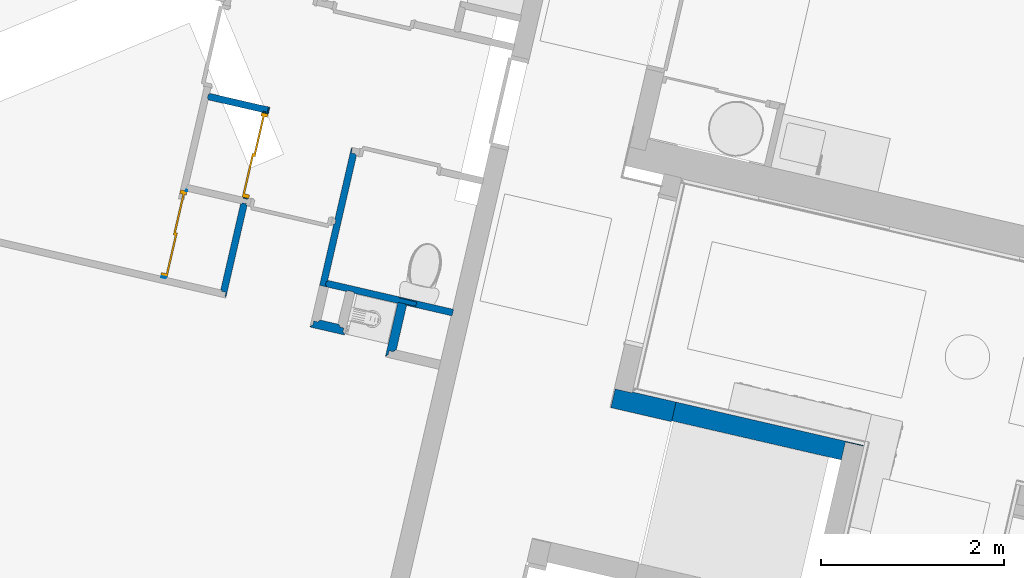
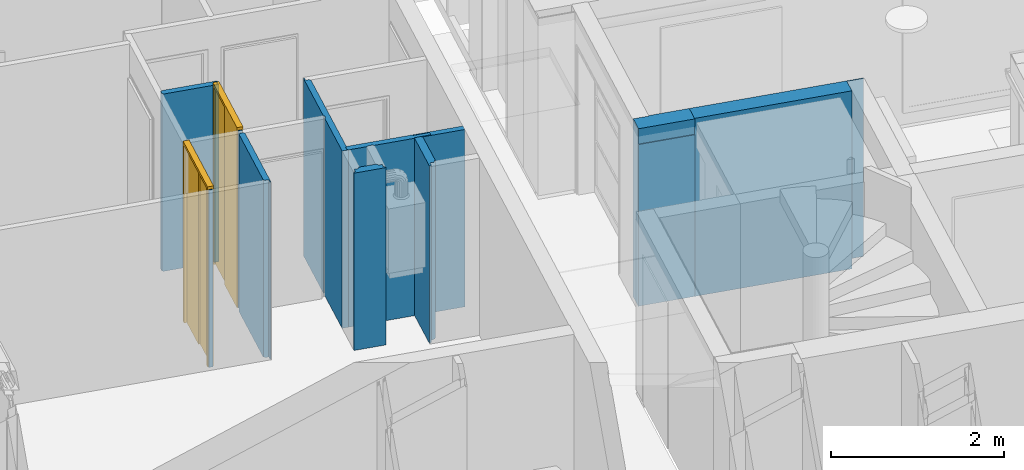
# One storey, part 47 of 119: 11 walls, 2 doors, 2 openings.
"""IFC2X3 building model written with IfcOpenShell, lengths in metres."""

from ifc_helpers import new_model, entity, si_unit, converted_unit, derived_unit, money_unit, direction, frame, origin_with_axes, place, context, subcontext, project, spatial, faceted_brep, material, material_list, type_object, element, fill, save


model = new_model("IFC2X3")

# Units and contexts
model_context = context("Model", 3, precision=1e-05, world=origin_with_axes(), true_north=direction((0.0, 1.0)))
body_context = subcontext(model_context, "Body", "Model", "MODEL_VIEW")
ifc_project = project(units=[si_unit("LENGTHUNIT", "METRE"), si_unit("AREAUNIT", "SQUARE_METRE"), si_unit("VOLUMEUNIT", "CUBIC_METRE"), converted_unit("PLANEANGLEUNIT", "DEGREE", entity("IfcPlaneAngleMeasure", 0.0174532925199), si_unit("PLANEANGLEUNIT", "RADIAN"), dimensions=[0, 0, 0, 0, 0, 0, 0]), si_unit("SOLIDANGLEUNIT", "STERADIAN"), money_unit("EUR"), converted_unit("TIMEUNIT", "Year", entity("IfcTimeMeasure", 31556926.0), si_unit("TIMEUNIT", "SECOND"), dimensions=[0, 0, 1, 0, 0, 0, 0]), si_unit("MASSUNIT", "GRAM", prefix="KILO"), si_unit("THERMODYNAMICTEMPERATUREUNIT", "DEGREE_CELSIUS"), si_unit("LUMINOUSINTENSITYUNIT", "LUMEN"), si_unit("ENERGYUNIT", "JOULE", prefix="MEGA"), derived_unit("THERMALCONDUCTANCEUNIT", [(si_unit("POWERUNIT", "WATT"), 1), (si_unit("LENGTHUNIT", "METRE"), -1), (si_unit("THERMODYNAMICTEMPERATUREUNIT", "KELVIN"), -1)]), derived_unit("SPECIFICHEATCAPACITYUNIT", [(si_unit("ENERGYUNIT", "JOULE"), 1), (si_unit("MASSUNIT", "GRAM", prefix="KILO"), -1), (si_unit("THERMODYNAMICTEMPERATUREUNIT", "KELVIN"), -1)]), derived_unit("MASSDENSITYUNIT", [(si_unit("MASSUNIT", "GRAM", prefix="KILO"), 1), (si_unit("VOLUMEUNIT", "CUBIC_METRE"), -1)])], contexts=[model_context])

# Site, building, storey
site_placement = place(None, origin_with_axes())
site = spatial("IfcSite", under=ifc_project, at=site_placement, Name="Site", CompositionType="ELEMENT")
building_placement = place(site_placement, origin_with_axes())
building = spatial("IfcBuilding", under=site, at=building_placement, Name="Bâtiment", CompositionType="ELEMENT")
storey_placement = place(building_placement, origin_with_axes())
storey = spatial("IfcBuildingStorey", under=building, at=storey_placement, Name="Rez-de-chaussée", CompositionType="ELEMENT", Elevation=0.0)

# Walls
ifc_material_1 = material(Name="Finition int - Plaque de plâtre")
ifc_material_2 = material(Name="Isolation - Laine de roche")
ifc_material_list_1 = material_list([ifc_material_1, ifc_material_2, ifc_material_1])
wall_type_1 = type_object("IfcWallType", Name="3 - Cloison 72mm Placostil 74", PredefinedType="USERDEFINED")
wall_1_placement = place(storey_placement, frame((-12.2584688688, -3.14533732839, 0.0), z_axis=(0.0, 0.0, 1.0), x_axis=(-0.97438734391, 0.224876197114, 0.0)))
element("IfcWall", 1, at=wall_1_placement, inside=storey, type_object=wall_type_1, material=ifc_material_list_1, Name="Cloison Placostil 72/48", ObjectType="PARTITIONING", context=body_context, shape_type="Brep", body=[
    faceted_brep([(0.567947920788, -0.013, 0.0), (0.801000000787, -0.013, 0.0), (0.801000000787, -0.013, 2.5), (0.567947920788, -0.013, 2.5), (0.568109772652, 0.0, 0.0), (0.801000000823, 2.78449263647e-10, 0.0), (0.801000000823, 2.78449263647e-10, 2.5), (0.568109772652, 0.0, 2.5)], [[[0, 1, 2, 3]], [[4, 5, 1, 0]], [[5, 6, 2, 1]], [[3, 2, 6, 7]], [[4, 0, 3, 7]], [[7, 6, 5, 4]]]),
    faceted_brep([(0.49410403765, 0.0, 2.5), (0.0, 0.0, 2.5), (0.0, -0.013, 2.5), (0.493942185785, -0.013, 2.5), (0.49410403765, 0.0, 0.0), (0.0, 0.0, 0.0), (0.0, -0.013, 0.0), (0.493942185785, -0.013, 0.0)], [[[0, 1, 2, 3]], [[4, 5, 1, 0]], [[5, 6, 2, 1]], [[3, 2, 6, 7]], [[4, 0, 3, 7]], [[7, 6, 5, 4]]]),
    faceted_brep([(-0.200000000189, -0.061, 0.0), (0.814000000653, -0.061, 0.0), (0.814000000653, -0.061, 2.5), (-0.200000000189, -0.061, 2.5), (-0.200000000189, -0.013, 0.0), (0.814000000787, -0.013, 0.0), (0.814000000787, -0.013, 2.5), (-0.200000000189, -0.013, 2.5)], [[[0, 1, 2, 3]], [[4, 5, 1, 0]], [[5, 6, 2, 1]], [[3, 2, 6, 7]], [[7, 4, 0, 3]], [[7, 6, 5, 4]]]),
    faceted_brep([(0.801000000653, -0.061, 2.5), (-1.5607604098e-10, -0.061, 2.5), (-1.89340099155e-10, -0.074, 2.5), (0.801000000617, -0.074, 2.5), (0.801000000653, -0.061, 0.0), (-1.5607604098e-10, -0.061, 0.0), (-1.89340099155e-10, -0.074, 0.0), (0.801000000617, -0.074, 0.0)], [[[0, 1, 2, 3]], [[4, 5, 1, 0]], [[5, 6, 2, 1]], [[3, 2, 6, 7]], [[4, 0, 3, 7]], [[7, 6, 5, 4]]]),
])
wall_2_placement = place(storey_placement, frame((-12.7629494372, -1.44021904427, 0.0), z_axis=(0.0, 0.0, 1.0), x_axis=(-0.224876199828, -0.974387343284, 0.0)))
element("IfcWall", 2, at=wall_2_placement, inside=storey, type_object=wall_type_1, material=ifc_material_list_1, Name="Cloison Placostil 72/48", ObjectType="PARTITIONING", context=body_context, shape_type="Brep", body=[
    faceted_brep([(1.54800000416, 0.074, 0.0), (1.53500000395, 0.074, 0.0), (1.53500000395, 0.074, 2.5), (1.54800000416, 0.074, 2.5), (1.54800000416, 0.061, 0.0), (1.53500000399, 0.061, 0.0), (1.53500000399, 0.061, 2.5), (1.54800000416, 0.061, 2.5)], [[[0, 1, 2, 3]], [[4, 5, 1, 0]], [[5, 6, 2, 1]], [[3, 2, 6, 7]], [[3, 7, 4, 0]], [[7, 6, 5, 4]]]),
    faceted_brep([(0.0740000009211, 0.061, 2.5), (1.48700000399, 0.061, 2.5), (1.48700000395, 0.074, 2.5), (0.0740000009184, 0.074, 2.5), (0.0740000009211, 0.061, 0.0), (1.48700000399, 0.061, 0.0), (1.48700000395, 0.074, 0.0), (0.0740000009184, 0.074, 0.0)], [[[0, 1, 2, 3]], [[4, 5, 1, 0]], [[5, 6, 2, 1]], [[3, 2, 6, 7]], [[3, 7, 4, 0]], [[7, 6, 5, 4]]]),
    faceted_brep([(1.54800000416, 0.013, 0.0), (0.061000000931, 0.013, 0.0), (0.0610000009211, 0.061, 0.0), (1.54800000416, 0.061, 0.0), (1.54800000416, 0.013, 2.5), (0.061000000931, 0.013, 2.5), (0.0610000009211, 0.061, 2.5), (1.54800000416, 0.061, 2.5)], [[[0, 1, 2, 3]], [[4, 5, 1, 0]], [[6, 2, 1, 5]], [[3, 2, 6, 7]], [[7, 4, 0, 3]], [[7, 6, 5, 4]]]),
    faceted_brep([(1.54800000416, 0.0, 0.0), (0.859293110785, 0.0, 0.0), (0.859293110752, 0.013, 0.0), (1.54800000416, 0.013, 0.0), (1.54800000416, 0.0, 2.5), (0.859293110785, 0.0, 2.5), (0.859293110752, 0.013, 2.5), (1.54800000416, 0.013, 2.5)], [[[0, 1, 2, 3]], [[4, 5, 1, 0]], [[6, 2, 1, 5]], [[3, 2, 6, 7]], [[7, 4, 0, 3]], [[7, 6, 5, 4]]]),
    faceted_brep([(0.0130000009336, 0.0, 0.0), (0.013000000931, 0.013, 0.0), (0.811293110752, 0.013, 0.0), (0.811293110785, 0.0, 0.0), (0.0130000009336, 0.0, 2.5), (0.013000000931, 0.013, 2.5), (0.811293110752, 0.013, 2.5), (0.811293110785, 0.0, 2.5)], [[[0, 1, 2, 3]], [[1, 0, 4, 5]], [[1, 5, 6, 2]], [[7, 3, 2, 6]], [[4, 0, 3, 7]], [[5, 4, 7, 6]]]),
])

# Wall, opening, door
ifc_material_list_2 = material_list([ifc_material_2, ifc_material_1])
wall_3_placement = place(storey_placement, frame((-14.7921930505, -2.93548120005, 0.0), z_axis=(0.0, 0.0, 1.0), x_axis=(0.224876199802, 0.974387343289, 0.0)))
wall_3 = element("IfcWall", 3, at=wall_3_placement, inside=storey, type_object=wall_type_1, material=ifc_material_list_2, Name="Cloison Placostil 72/48", ObjectType="PARTITIONING", context=body_context, shape_type="Brep", body=[
    faceted_brep([(0.0740000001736, 0.013, 0.0), (0.0740000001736, 0.013, 2.5), (0.0609999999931, 0.013, 2.5), (0.0609999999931, 0.013, 0.0), (0.0740000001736, 0.061, 2.5), (0.0740000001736, 0.061, 0.0), (0.0609999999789, 0.061, 2.5), (0.0609999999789, 0.061, 0.0)], [[[0, 1, 2, 3]], [[4, 1, 0, 5]], [[1, 4, 6, 2]], [[6, 7, 3, 2]], [[5, 0, 3, 7]], [[4, 5, 7, 6]]]),
    faceted_brep([(1.04099999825, 0.013, 2.5), (1.04099999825, 0.0, 2.5), (1.05399999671, 0.0, 2.5), (1.05399999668, 0.013, 2.5), (1.04099999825, 0.0, 0.0), (1.04099999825, 0.013, 0.0), (1.05399999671, 0.0, 0.0), (1.05399999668, 0.013, 0.0)], [[[0, 1, 2, 3]], [[4, 1, 0, 5]], [[1, 4, 6, 2]], [[6, 7, 3, 2]], [[5, 0, 3, 7]], [[4, 5, 7, 6]]]),
])
opening_1_placement = place(wall_3_placement, frame((0.557499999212, 0.0, 0.0), z_axis=(0.0, 0.0, 1.0), x_axis=(1.0, 0.0, 0.0)))
opening_1 = element("IfcOpeningElement", 4, at=opening_1_placement, cuts=wall_3, Name="Por-003", context=body_context, shape_type="Brep", body=[
    faceted_brep([(-0.483499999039, 0.074, 0.0), (0.483499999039, 0.074, 0.0), (0.483499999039, -0.074, 0.0), (-0.483499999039, -0.074, 0.0), (-0.483499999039, 0.074, 2.54), (0.483499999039, 0.074, 2.54), (0.483499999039, -0.074, 2.54), (-0.483499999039, -0.074, 2.54)], [[[0, 1, 2, 3]], [[0, 4, 5, 1]], [[1, 5, 6, 2]], [[3, 2, 6, 7]], [[4, 0, 3, 7]], [[5, 4, 7, 6]]]),
])
door_style = type_object("IfcDoorStyle", Name="Porte int générique 2019", ConstructionType="NOTDEFINED", OperationType="USERDEFINED", ParameterTakesPrecedence=False, Sizeable=False)
door_1_placement = place(opening_1_placement, frame((0.443499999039, 0.0, 0.0), z_axis=(0.0, 0.0, 1.0), x_axis=(-1.0, 0.0, 0.0)))
door_1 = element("IfcDoor", 5, at=door_1_placement, inside=storey, type_object=door_style, Name="Por-003", ObjectType="DOOR", OverallHeight=2.5, OverallWidth=0.887, context=body_context, shape_type="Brep", body=[
    faceted_brep([(0.926999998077, 0.0, 0.0), (0.886999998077, 0.0, 0.0), (0.886999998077, 0.0, 2.5), (0.0, 0.0, 2.5), (0.0, 0.0, 0.0), (-0.04, 0.0, 0.0), (-0.04, 0.0, 2.54), (0.926999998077, 0.0, 2.54), (0.926999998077, -0.074, 0.0), (0.886999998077, -0.074, 0.0), (0.886999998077, -0.074, 2.5), (0.0, -0.074, 2.5), (0.0, -0.074, 0.0), (-0.04, -0.074, 0.0), (-0.04, -0.074, 2.54), (0.926999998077, -0.074, 2.54)], [[[0, 1, 2, 3, 4, 5, 6, 7]], [[0, 8, 9, 1]], [[1, 9, 10, 2]], [[2, 10, 11, 3]], [[3, 11, 12, 4]], [[5, 4, 12, 13]], [[14, 6, 5, 13]], [[15, 7, 6, 14]], [[8, 0, 7, 15]], [[9, 8, 15, 14, 13, 12, 11, 10]]]),
    faceted_brep([(0.886999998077, 0.0, 0.0), (0.886999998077, -0.02, 0.0), (0.428499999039, -0.02, 0.0), (0.428499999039, 0.0, 0.0), (0.886999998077, 0.0, 2.5), (0.886999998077, -0.02, 2.5), (0.428499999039, -0.02, 2.5), (0.428499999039, 0.0, 2.5)], [[[0, 1, 2, 3]], [[4, 5, 1, 0]], [[1, 5, 6, 2]], [[3, 2, 6, 7]], [[0, 3, 7, 4]], [[7, 6, 5, 4]]]),
    faceted_brep([(0.458499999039, -0.02, 0.0), (0.458499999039, -0.04, 0.0), (0.0, -0.04, 0.0), (0.0, -0.02, 0.0), (0.458499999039, -0.02, 2.5), (0.458499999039, -0.04, 2.5), (0.0, -0.04, 2.5), (0.0, -0.02, 2.5)], [[[0, 1, 2, 3]], [[4, 5, 1, 0]], [[1, 5, 6, 2]], [[3, 2, 6, 7]], [[0, 3, 7, 4]], [[7, 6, 5, 4]]]),
])
fill(opening_1, door_1)

wall_4_placement = place(storey_placement, frame((-13.8847190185, -2.00060587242, 0.0), z_axis=(0.0, 0.0, 1.0), x_axis=(0.224876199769, 0.974387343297, 0.0)))
wall_4 = element("IfcWall", 6, at=wall_4_placement, inside=storey, type_object=wall_type_1, material=ifc_material_list_2, Name="Cloison Placostil 72/48", ObjectType="PARTITIONING", context=body_context, shape_type="Brep", body=[
    faceted_brep([(0.950000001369, 0.061, 2.5), (0.950000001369, 0.013, 2.5), (0.963000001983, 0.013, 2.5), (0.963000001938, 0.061, 2.5), (0.950000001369, 0.013, 0.0), (0.950000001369, 0.061, 0.0), (0.963000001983, 0.013, 0.0), (0.963000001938, 0.061, 0.0)], [[[0, 1, 2, 3]], [[4, 1, 0, 5]], [[1, 4, 6, 2]], [[7, 3, 2, 6]], [[5, 0, 3, 7]], [[4, 5, 7, 6]]]),
    faceted_brep([(0.950000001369, 0.013, 2.5), (0.950000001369, 0.0, 2.5), (1.01100000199, 0.0, 2.5), (1.01100000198, 0.013, 2.5), (0.950000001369, 0.0, 0.0), (0.950000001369, 0.013, 0.0), (1.01100000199, 0.0, 0.0), (1.01100000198, 0.013, 0.0)], [[[0, 1, 2, 3]], [[4, 1, 0, 5]], [[1, 4, 6, 2]], [[7, 3, 2, 6]], [[5, 0, 3, 7]], [[4, 5, 7, 6]]]),
])
opening_2_placement = place(wall_4_placement, frame((0.474999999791, 0.0, 0.0), z_axis=(0.0, 0.0, 1.0), x_axis=(1.0, 0.0, 0.0)))
opening_2 = element("IfcOpeningElement", 7, at=opening_2_placement, cuts=wall_4, Name="Por-002", context=body_context, shape_type="Brep", body=[
    faceted_brep([(-0.475000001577, 0.074, 0.0), (0.475000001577, 0.074, 0.0), (0.475000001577, -0.074, 0.0), (-0.475000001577, -0.074, 0.0), (-0.475000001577, 0.074, 2.54), (0.475000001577, 0.074, 2.54), (0.475000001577, -0.074, 2.54), (-0.475000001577, -0.074, 2.54)], [[[0, 1, 2, 3]], [[0, 4, 5, 1]], [[1, 5, 6, 2]], [[3, 2, 6, 7]], [[4, 0, 3, 7]], [[5, 4, 7, 6]]]),
])
door_2_placement = place(opening_2_placement, frame((-0.435000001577, 0.0, 0.0), z_axis=(0.0, 0.0, 1.0), x_axis=(1.0, 0.0, 0.0)))
door_2 = element("IfcDoor", 8, at=door_2_placement, inside=storey, type_object=door_style, Name="Por-002", ObjectType="DOOR", OverallHeight=2.5, OverallWidth=0.87, context=body_context, shape_type="Brep", body=[
    faceted_brep([(-0.04, 0.074, 0.0), (-0.04, 0.074, 2.54), (0.910000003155, 0.074, 2.54), (0.910000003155, 0.074, 0.0), (0.870000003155, 0.074, 0.0), (0.870000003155, 0.074, 2.5), (0.0, 0.074, 2.5), (0.0, 0.074, 0.0), (-0.04, 0.0, 0.0), (-0.04, 0.0, 2.54), (0.910000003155, 0.0, 2.54), (0.910000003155, 0.0, 0.0), (0.870000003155, 0.0, 0.0), (0.870000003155, 0.0, 2.5), (0.0, 0.0, 2.5), (0.0, 0.0, 0.0)], [[[0, 1, 2, 3, 4, 5, 6, 7]], [[8, 9, 1, 0]], [[9, 10, 2, 1]], [[10, 11, 3, 2]], [[3, 11, 12, 4]], [[5, 4, 12, 13]], [[6, 5, 13, 14]], [[7, 6, 14, 15]], [[0, 7, 15, 8]], [[15, 14, 13, 12, 11, 10, 9, 8]]]),
    faceted_brep([(0.0, 0.074, 0.0), (0.450000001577, 0.074, 0.0), (0.450000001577, 0.054, 0.0), (0.0, 0.054, 0.0), (0.0, 0.074, 2.5), (0.450000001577, 0.074, 2.5), (0.450000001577, 0.054, 2.5), (0.0, 0.054, 2.5)], [[[0, 1, 2, 3]], [[0, 4, 5, 1]], [[1, 5, 6, 2]], [[3, 2, 6, 7]], [[4, 0, 3, 7]], [[5, 4, 7, 6]]]),
    faceted_brep([(0.420000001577, 0.054, 0.0), (0.870000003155, 0.054, 0.0), (0.870000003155, 0.034, 0.0), (0.420000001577, 0.034, 0.0), (0.420000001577, 0.054, 2.5), (0.870000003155, 0.054, 2.5), (0.870000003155, 0.034, 2.5), (0.420000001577, 0.034, 2.5)], [[[0, 1, 2, 3]], [[0, 4, 5, 1]], [[1, 5, 6, 2]], [[3, 2, 6, 7]], [[4, 0, 3, 7]], [[5, 4, 7, 6]]]),
])
fill(opening_2, door_2)

# Walls
wall_5_placement = place(storey_placement, frame((-14.1354559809, -3.08704775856, 0.0), z_axis=(0.0, 0.0, 1.0), x_axis=(0.224876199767, 0.974387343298, 0.0)))
element("IfcWall", 9, at=wall_5_placement, inside=storey, type_object=wall_type_1, material=ifc_material_list_1, Name="Cloison Placostil 72/48", ObjectType="PARTITIONING", context=body_context, shape_type="Brep", body=[
    faceted_brep([(1.04099999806, 0.074, 0.0), (1.04099999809, 0.061, 0.0), (0.0739999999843, 0.061, 0.0), (0.0739999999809, 0.074, 0.0), (1.04099999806, 0.074, 2.5), (1.04099999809, 0.061, 2.5), (0.0739999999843, 0.061, 2.5), (0.0739999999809, 0.074, 2.5)], [[[0, 1, 2, 3]], [[1, 0, 4, 5]], [[1, 5, 6, 2]], [[7, 3, 2, 6]], [[4, 0, 3, 7]], [[5, 4, 7, 6]]]),
    faceted_brep([(1.05399999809, 0.061, 0.0), (1.05399999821, 0.013, 0.0), (0.0609999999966, 0.013, 0.0), (0.0609999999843, 0.061, 0.0), (1.05399999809, 0.061, 2.5), (1.05399999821, 0.013, 2.5), (0.0609999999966, 0.013, 2.5), (0.0609999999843, 0.061, 2.5)], [[[0, 1, 2, 3]], [[1, 0, 4, 5]], [[1, 5, 6, 2]], [[7, 3, 2, 6]], [[4, 0, 3, 7]], [[5, 4, 7, 6]]]),
    faceted_brep([(1.10199999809, 0.061, 0.0), (1.11499999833, 0.061, 0.0), (1.11499999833, 0.013, 0.0), (1.10199999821, 0.013, 0.0), (1.10199999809, 0.061, 2.5), (1.11499999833, 0.061, 2.5), (1.11499999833, 0.013, 2.5), (1.10199999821, 0.013, 2.5)], [[[0, 1, 2, 3]], [[4, 5, 1, 0]], [[2, 1, 5, 6]], [[3, 2, 6, 7]], [[4, 0, 3, 7]], [[7, 6, 5, 4]]]),
    faceted_brep([(1.04099999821, 0.013, 0.0), (1.04099999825, 0.0, 0.0), (0.013, 0.0, 0.0), (0.0129999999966, 0.013, 0.0), (1.04099999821, 0.013, 2.5), (1.04099999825, 0.0, 2.5), (0.013, 0.0, 2.5), (0.0129999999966, 0.013, 2.5)], [[[0, 1, 2, 3]], [[1, 0, 4, 5]], [[1, 5, 6, 2]], [[7, 3, 2, 6]], [[4, 0, 3, 7]], [[5, 4, 7, 6]]]),
])
wall_6_placement = place(storey_placement, frame((-11.4887028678, -3.32298952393, 0.0), z_axis=(0.0, 0.0, 1.0), x_axis=(-0.97438734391, 0.224876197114, 0.0)))
element("IfcWall", 10, at=wall_6_placement, inside=storey, type_object=wall_type_1, material=ifc_material_list_1, Name="Cloison Placostil 72/48", ObjectType="PARTITIONING", context=body_context, shape_type="Brep", body=[
    faceted_brep([(0.179999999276, -0.013, 2.5), (0.702999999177, -0.013, 2.5), (0.70299999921, 0.0, 2.5), (0.179999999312, 0.0, 2.5), (0.179999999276, -0.013, 0.0), (0.702999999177, -0.013, 0.0), (0.70299999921, 0.0, 0.0), (0.179999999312, 0.0, 0.0)], [[[0, 1, 2, 3]], [[4, 5, 1, 0]], [[6, 2, 1, 5]], [[3, 2, 6, 7]], [[7, 4, 0, 3]], [[7, 6, 5, 4]]]),
    faceted_brep([(0.179999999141, -0.061, 0.0), (0.589999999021, -0.061, 0.0), (0.589999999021, -0.061, 2.5), (0.179999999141, -0.061, 2.5), (0.179999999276, -0.013, 0.0), (0.589999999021, -0.013, 0.0), (0.589999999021, -0.013, 2.5), (0.179999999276, -0.013, 2.5)], [[[0, 1, 2, 3]], [[4, 5, 1, 0]], [[5, 6, 2, 1]], [[3, 2, 6, 7]], [[4, 0, 3, 7]], [[7, 6, 5, 4]]]),
    faceted_brep([(0.179999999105, -0.074, 2.5), (0.776999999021, -0.074, 2.5), (0.776999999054, -0.061, 2.5), (0.179999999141, -0.061, 2.5), (0.179999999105, -0.074, 0.0), (0.776999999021, -0.074, 0.0), (0.776999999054, -0.061, 0.0), (0.179999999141, -0.061, 0.0)], [[[0, 1, 2, 3]], [[4, 5, 1, 0]], [[6, 2, 1, 5]], [[3, 2, 6, 7]], [[7, 4, 0, 3]], [[7, 6, 5, 4]]]),
])
wall_7_placement = place(storey_placement, frame((-13.6544457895, -1.00283323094, 0.0), z_axis=(0.0, 0.0, 1.0), x_axis=(-0.974387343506, 0.224876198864, 0.0)))
element("IfcWall", 11, at=wall_7_placement, inside=storey, type_object=wall_type_1, material=ifc_material_list_1, Name="Cloison Placostil 72/48", ObjectType="PARTITIONING", context=body_context, shape_type="Brep", body=[
    faceted_brep([(0.674000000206, 0.074, 0.0), (0.674000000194, 0.061, 0.0), (0.0610000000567, 0.061, 0.0), (0.0610000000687, 0.074, 0.0), (0.674000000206, 0.074, 2.5), (0.674000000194, 0.061, 2.5), (0.0610000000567, 0.061, 2.5), (0.0610000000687, 0.074, 2.5)], [[[0, 1, 2, 3]], [[1, 0, 4, 5]], [[1, 5, 6, 2]], [[7, 3, 2, 6]], [[4, 0, 3, 7]], [[5, 4, 7, 6]]]),
    faceted_brep([(0.687000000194, 0.061, 0.0), (0.687000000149, 0.013, 0.0), (0.0130000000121, 0.013, 0.0), (0.0130000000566, 0.061, 0.0), (0.687000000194, 0.061, 2.5), (0.687000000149, 0.013, 2.5), (0.0130000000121, 0.013, 2.5), (0.0130000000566, 0.061, 2.5)], [[[0, 1, 2, 3]], [[1, 0, 4, 5]], [[1, 5, 6, 2]], [[7, 3, 2, 6]], [[4, 0, 3, 7]], [[5, 4, 7, 6]]]),
    faceted_brep([(0.674000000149, 0.013, 0.0), (0.674000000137, 0.0, 0.0), (0.0, 0.0, 0.0), (0.0, 0.013, 0.0), (0.674000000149, 0.013, 2.5), (0.674000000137, 0.0, 2.5), (0.0, 0.0, 2.5), (0.0, 0.013, 2.5)], [[[0, 1, 2, 3]], [[1, 0, 4, 5]], [[1, 5, 6, 2]], [[7, 3, 2, 6]], [[4, 0, 3, 7]], [[5, 4, 7, 6]]]),
])
ifc_material_3 = material(Name="Finition int - Enduit plâtre")
ifc_material_4 = material(Name="Béton")
ifc_material_list_3 = material_list([ifc_material_3, ifc_material_4, ifc_material_3])
wall_type_2 = type_object("IfcWallType", Name="2 - Murs Béton 20 + Enduit 2 Faces  220", PredefinedType="USERDEFINED")
wall_8_placement = place(storey_placement, frame((-9.26516024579, -4.42763380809, 0.0), z_axis=(0.0, 0.0, 1.0), x_axis=(-0.974387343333, 0.224876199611, 0.0)))
element("IfcWall", 12, at=wall_8_placement, inside=storey, type_object=wall_type_2, material=ifc_material_list_3, Name="M_Ext-009", ObjectType="SOLIDWALL", context=body_context, shape_type="Brep", body=[
    faceted_brep([(0.0, 0.01, 0.02), (0.0, 0.0, 0.02), (3.37728067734e-10, 0.0, 2.287), (3.38117089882e-10, 0.01, 2.287), (0.679999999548, 0.0, 0.02), (0.67999999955, 0.00999999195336, 0.02), (0.679999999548, 0.0, 2.287), (0.67999999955, 0.00999999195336, 2.287)], [[[0, 1, 2, 3]], [[4, 1, 0, 5]], [[1, 4, 6, 2]], [[3, 2, 6, 7]], [[5, 0, 3, 7]], [[4, 5, 7, 6]]]),
    faceted_brep([(0.679999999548, 0.0, 2.51), (0.0, 0.0, 2.51), (3.37728067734e-10, 0.0, 2.4), (0.679999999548, 0.0, 2.4), (0.0, 0.01, 2.51), (0.67999999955, 0.00999999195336, 2.51), (3.38117089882e-10, 0.01, 2.4), (0.67999999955, 0.00999999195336, 2.4)], [[[0, 1, 2, 3]], [[4, 1, 0, 5]], [[1, 4, 6, 2]], [[3, 2, 6, 7]], [[5, 0, 3, 7]], [[4, 5, 7, 6]]]),
    faceted_brep([(0.679999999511, -0.2, 2.51), (0.0, -0.2, 2.51), (0.0, -0.2, 0.0), (0.679999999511, -0.2, 0.0), (0.0, 0.0, 2.51), (0.679999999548, 0.0, 2.51), (0.0, 0.0, 0.0), (0.679999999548, 0.0, 0.0)], [[[0, 1, 2, 3]], [[4, 1, 0, 5]], [[1, 4, 6, 2]], [[6, 7, 3, 2]], [[5, 0, 3, 7]], [[4, 5, 7, 6]]]),
    faceted_brep([(0.489999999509, -0.21, 2.51), (0.0, -0.21, 2.51), (0.0, -0.21, 0.0), (0.489999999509, -0.21, 0.0), (0.0, -0.2, 2.51), (0.489999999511, -0.2, 2.51), (0.0, -0.2, 0.0), (0.489999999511, -0.2, 0.0)], [[[0, 1, 2, 3]], [[4, 1, 0, 5]], [[1, 4, 6, 2]], [[6, 7, 3, 2]], [[5, 0, 3, 7]], [[4, 5, 7, 6]]]),
])
ifc_material_list_4 = material_list([ifc_material_1, ifc_material_1, ifc_material_2, ifc_material_1, ifc_material_1])
wall_type_3 = type_object("IfcWallType", Name="3 - Cloison Gaine Technique 98mm 100", PredefinedType="USERDEFINED")
wall_9_placement = place(storey_placement, frame((-12.3933945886, -3.72996973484, 0.0), z_axis=(0.0, 0.0, 1.0), x_axis=(0.224876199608, 0.974387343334, 0.0)))
element("IfcWall", 13, at=wall_9_placement, inside=storey, type_object=wall_type_3, material=ifc_material_list_4, Name="Cloison 98 isolée", ObjectType="PARTITIONING", context=body_context, shape_type="Brep", body=[
    faceted_brep([(0.0129999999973, -0.013, 0.0), (0.613000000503, -0.013, 0.0), (0.613000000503, -0.013, 2.5), (0.0129999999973, -0.013, 2.5), (0.013, 0.0, 0.0), (0.613000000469, 0.0, 0.0), (0.613000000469, 0.0, 2.5), (0.013, 0.0, 2.5)], [[[0, 1, 2, 3]], [[4, 5, 1, 0]], [[5, 6, 2, 1]], [[3, 2, 6, 7]], [[4, 0, 3, 7]], [[7, 6, 5, 4]]]),
    faceted_brep([(0.674000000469, 0.0, 2.5), (0.661000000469, 0.0, 2.5), (0.661000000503, -0.013, 2.5), (0.674000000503, -0.013, 2.5), (0.674000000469, 0.0, 0.0), (0.661000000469, 0.0, 0.0), (0.661000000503, -0.013, 0.0), (0.674000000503, -0.013, 0.0)], [[[0, 1, 2, 3]], [[4, 5, 1, 0]], [[5, 6, 2, 1]], [[3, 2, 6, 7]], [[4, 0, 3, 7]], [[7, 6, 5, 4]]]),
    faceted_brep([(0.0259999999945, -0.026, 0.0), (0.613000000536, -0.026, 0.0), (0.613000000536, -0.026, 2.5), (0.0259999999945, -0.026, 2.5), (0.0259999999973, -0.013, 0.0), (0.613000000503, -0.013, 0.0), (0.613000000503, -0.013, 2.5), (0.0259999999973, -0.013, 2.5)], [[[0, 1, 2, 3]], [[4, 5, 1, 0]], [[5, 6, 2, 1]], [[3, 2, 6, 7]], [[4, 0, 3, 7]], [[7, 6, 5, 4]]]),
    faceted_brep([(0.0739999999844, -0.074, 2.5), (0.613000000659, -0.074, 2.5), (0.613000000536, -0.026, 2.5), (0.0739999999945, -0.026, 2.5), (0.0739999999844, -0.074, 0.0), (0.613000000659, -0.074, 0.0), (0.613000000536, -0.026, 0.0), (0.0739999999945, -0.026, 0.0)], [[[0, 1, 2, 3]], [[4, 5, 1, 0]], [[6, 2, 1, 5]], [[3, 2, 6, 7]], [[7, 4, 0, 3]], [[7, 6, 5, 4]]]),
    faceted_brep([(0.0869999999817, -0.087, 2.5), (0.613000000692, -0.087, 2.5), (0.613000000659, -0.074, 2.5), (0.0869999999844, -0.074, 2.5), (0.0869999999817, -0.087, 0.0), (0.613000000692, -0.087, 0.0), (0.613000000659, -0.074, 0.0), (0.0869999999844, -0.074, 0.0)], [[[0, 1, 2, 3]], [[4, 5, 1, 0]], [[6, 2, 1, 5]], [[3, 2, 6, 7]], [[7, 4, 0, 3]], [[7, 6, 5, 4]]]),
    faceted_brep([(0.0999999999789, -0.1, 2.5), (0.600000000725, -0.1, 2.5), (0.600000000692, -0.087, 2.5), (0.0999999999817, -0.087, 2.5), (0.0999999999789, -0.1, 0.0), (0.600000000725, -0.1, 0.0), (0.600000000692, -0.087, 0.0), (0.0999999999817, -0.087, 0.0)], [[[0, 1, 2, 3]], [[4, 5, 1, 0]], [[6, 2, 1, 5]], [[3, 2, 6, 7]], [[7, 4, 0, 3]], [[7, 6, 5, 4]]]),
])
wall_10_placement = place(storey_placement, frame((-13.2161168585, -3.40379100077, 0.0), z_axis=(0.0, 0.0, 1.0), x_axis=(0.974387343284, -0.224876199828, 0.0)))
element("IfcWall", 14, at=wall_10_placement, inside=storey, type_object=wall_type_3, material=ifc_material_list_4, Name="Cloison 98 isolée", ObjectType="PARTITIONING", context=body_context, shape_type="Brep", body=[
    faceted_brep([(0.302318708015, 0.1, 0.0), (0.302156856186, 0.087, 0.0), (0.087, 0.087, 0.0), (0.087, 0.1, 0.0), (0.302318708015, 0.1, 2.5), (0.302156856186, 0.087, 2.5), (0.087, 0.087, 2.5), (0.087, 0.1, 2.5)], [[[0, 1, 2, 3]], [[1, 0, 4, 5]], [[1, 5, 6, 2]], [[7, 3, 2, 6]], [[4, 0, 3, 7]], [[5, 4, 7, 6]]]),
    faceted_brep([(0.315157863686, 0.087, 0.0), (0.314996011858, 0.074, 0.0), (0.074, 0.074, 0.0), (0.074, 0.087, 0.0), (0.315157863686, 0.087, 2.5), (0.314996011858, 0.074, 2.5), (0.074, 0.074, 2.5), (0.074, 0.087, 2.5)], [[[0, 1, 2, 3]], [[1, 0, 4, 5]], [[1, 5, 6, 2]], [[7, 3, 2, 6]], [[4, 0, 3, 7]], [[5, 4, 7, 6]]]),
    faceted_brep([(0.362999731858, 0.074, 0.0), (0.362402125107, 0.026, 0.0), (0.026, 0.026, 0.0), (0.026, 0.074, 0.0), (0.362999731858, 0.074, 2.5), (0.362402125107, 0.026, 2.5), (0.026, 0.026, 2.5), (0.026, 0.074, 2.5)], [[[0, 1, 2, 3]], [[1, 0, 4, 5]], [[1, 5, 6, 2]], [[7, 3, 2, 6]], [[4, 0, 3, 7]], [[5, 4, 7, 6]]]),
    faceted_brep([(0.375403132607, 0.026, 0.0), (0.375241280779, 0.013, 0.0), (0.013, 0.013, 0.0), (0.013, 0.026, 0.0), (0.375403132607, 0.026, 2.5), (0.375241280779, 0.013, 2.5), (0.013, 0.013, 2.5), (0.013, 0.026, 2.5)], [[[0, 1, 2, 3]], [[1, 0, 4, 5]], [[1, 5, 6, 2]], [[7, 3, 2, 6]], [[4, 0, 3, 7]], [[5, 4, 7, 6]]]),
    faceted_brep([(0.388242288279, 0.013, 0.0), (0.388080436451, 0.0, 0.0), (0.0, 0.0, 0.0), (0.0, 0.013, 0.0), (0.388242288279, 0.013, 2.5), (0.388080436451, 0.0, 2.5), (0.0, 0.0, 2.5), (0.0, 0.013, 2.5)], [[[0, 1, 2, 3]], [[1, 0, 4, 5]], [[1, 5, 6, 2]], [[7, 3, 2, 6]], [[4, 0, 3, 7]], [[5, 4, 7, 6]]]),
])
ifc_material_list_5 = material_list([ifc_material_4, ifc_material_3])
wall_type_4 = type_object("IfcWallType", Name="2 - Murs Béton 20 + Enduit 1 Face  210", PredefinedType="USERDEFINED")
wall_11_placement = place(storey_placement, frame((-7.41382429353, -4.85489858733, 0.0), z_axis=(0.0, 0.0, 1.0), x_axis=(-0.974387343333, 0.224876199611, 0.0)))
element("IfcWall", 15, at=wall_11_placement, inside=storey, type_object=wall_type_4, material=ifc_material_list_5, Name="M_Ext-009", ObjectType="SOLIDWALL", context=body_context, shape_type="Brep", body=[
    faceted_brep([(1.89999999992, -0.2, 2.51), (0.0, -0.2, 2.51), (0.0, -0.2, 0.0), (1.89999999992, -0.2, 0.0), (0.0, 0.0, 2.51), (1.89999999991, 0.0, 2.51), (0.0, 0.0, 0.0), (1.89999999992, 0.0, 0.0)], [[[0, 1, 2, 3]], [[4, 1, 0, 5]], [[1, 4, 6, 2]], [[2, 6, 7, 3]], [[5, 0, 3, 7]], [[4, 5, 7, 6]]]),
    faceted_brep([(1.89999999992, -0.21, 2.51), (-0.200000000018, -0.21, 2.51), (-0.200000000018, -0.21, 0.0), (1.89999999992, -0.21, 0.0), (-0.200000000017, -0.2, 2.51), (1.89999999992, -0.2, 2.51), (-0.200000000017, -0.2, 0.0), (1.89999999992, -0.2, 0.0)], [[[0, 1, 2, 3]], [[4, 1, 0, 5]], [[1, 4, 6, 2]], [[2, 6, 7, 3]], [[5, 0, 3, 7]], [[4, 5, 7, 6]]]),
])

save(model, "model.ifc")
